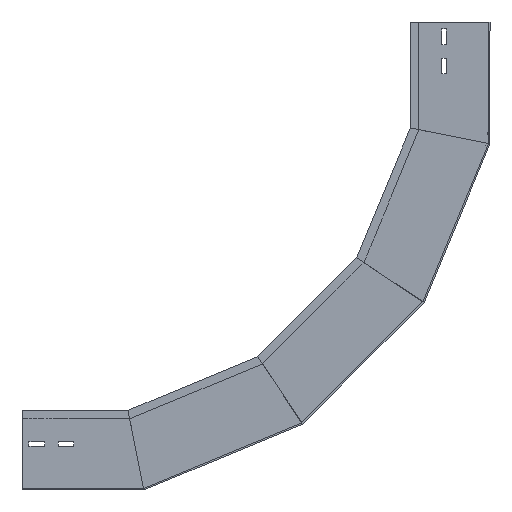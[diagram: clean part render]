
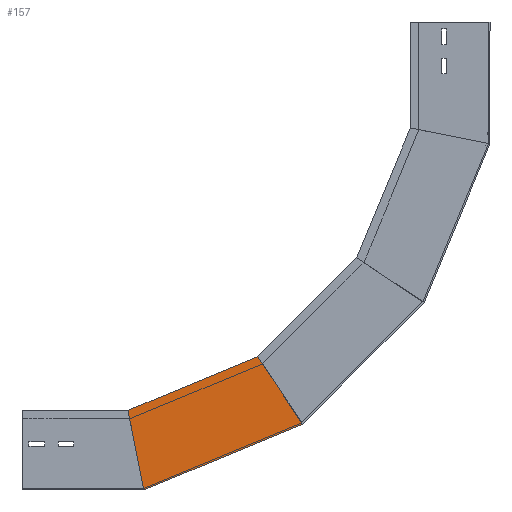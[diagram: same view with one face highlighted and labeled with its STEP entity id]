
A CAD part, left-side view. The second image highlights one B-rep face of the part: STEP entity #157.
In plain terms, the highlighted planar face has unit normal (-1, 0, 0) as drawn and (1, 0, 0) by its records, which use the part's own axes.
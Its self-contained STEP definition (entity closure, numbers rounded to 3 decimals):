
#157 = ADVANCED_FACE ( 'NONE', ( #850 ), #708, .F. ) ;
#196 = VECTOR ( 'NONE', #1041, 1000. ) ;
#226 = EDGE_CURVE ( 'NONE', #444, #1217, #890, .T. ) ;
#300 = CARTESIAN_POINT ( 'NONE',  ( 0., 103.936, -129.048 ) ) ;
#397 = EDGE_LOOP ( 'NONE', ( #941, #869, #1584, #1826 ) ) ;
#423 = EDGE_CURVE ( 'NONE', #787, #741, #561, .T. ) ;
#444 = VERTEX_POINT ( 'NONE', #1188 ) ;
#477 = DIRECTION ( 'NONE',  ( 0., 0.383, -0.924 ) ) ;
#545 = VECTOR ( 'NONE', #477, 1000. ) ;
#561 = LINE ( 'NONE', #1149, #196 ) ;
#586 = CARTESIAN_POINT ( 'NONE',  ( 0., 93.03, -396.695 ) ) ;
#592 = CARTESIAN_POINT ( 'NONE',  ( 0., 32.93, -165.55 ) ) ;
#641 = VECTOR ( 'NONE', #1375, 1000. ) ;
#649 = LINE ( 'NONE', #1482, #641 ) ;
#708 = PLANE ( 'NONE',  #1373 ) ;
#741 = VERTEX_POINT ( 'NONE', #586 ) ;
#787 = VERTEX_POINT ( 'NONE', #1749 ) ;
#850 = FACE_OUTER_BOUND ( 'NONE', #397, .T. ) ;
#869 = ORIENTED_EDGE ( 'NONE', *, *, #226, .T. ) ;
#880 = DIRECTION ( 'NONE',  ( 0., -0.981, -0.195 ) ) ;
#890 = LINE ( 'NONE', #592, #1376 ) ;
#941 = ORIENTED_EDGE ( 'NONE', *, *, #1661, .F. ) ;
#958 = EDGE_CURVE ( 'NONE', #1217, #741, #649, .T. ) ;
#1010 = DIRECTION ( 'NONE',  ( 0., 0., 1. ) ) ;
#1041 = DIRECTION ( 'NONE',  ( 0., -0.831, -0.556 ) ) ;
#1148 = CARTESIAN_POINT ( 'NONE',  ( 0., 0., -172.1 ) ) ;
#1149 = CARTESIAN_POINT ( 'NONE',  ( 0., 132.464, -370.346 ) ) ;
#1161 = CARTESIAN_POINT ( 'NONE',  ( 0., 0., -172.1 ) ) ;
#1188 = CARTESIAN_POINT ( 'NONE',  ( 0., 112.5, -149.722 ) ) ;
#1217 = VERTEX_POINT ( 'NONE', #1148 ) ;
#1373 = AXIS2_PLACEMENT_3D ( 'NONE', #1161, #1582, #1010 ) ;
#1375 = DIRECTION ( 'NONE',  ( 0., 0.383, -0.924 ) ) ;
#1376 = VECTOR ( 'NONE', #880, 1000. ) ;
#1482 = CARTESIAN_POINT ( 'NONE',  ( 0., 0., -172.1 ) ) ;
#1501 = LINE ( 'NONE', #300, #545 ) ;
#1582 = DIRECTION ( 'NONE',  ( -1., 0., 0. ) ) ;
#1584 = ORIENTED_EDGE ( 'NONE', *, *, #958, .T. ) ;
#1661 = EDGE_CURVE ( 'NONE', #444, #787, #1501, .T. ) ;
#1749 = CARTESIAN_POINT ( 'NONE',  ( 0., 188.403, -332.969 ) ) ;
#1826 = ORIENTED_EDGE ( 'NONE', *, *, #423, .F. ) ;
